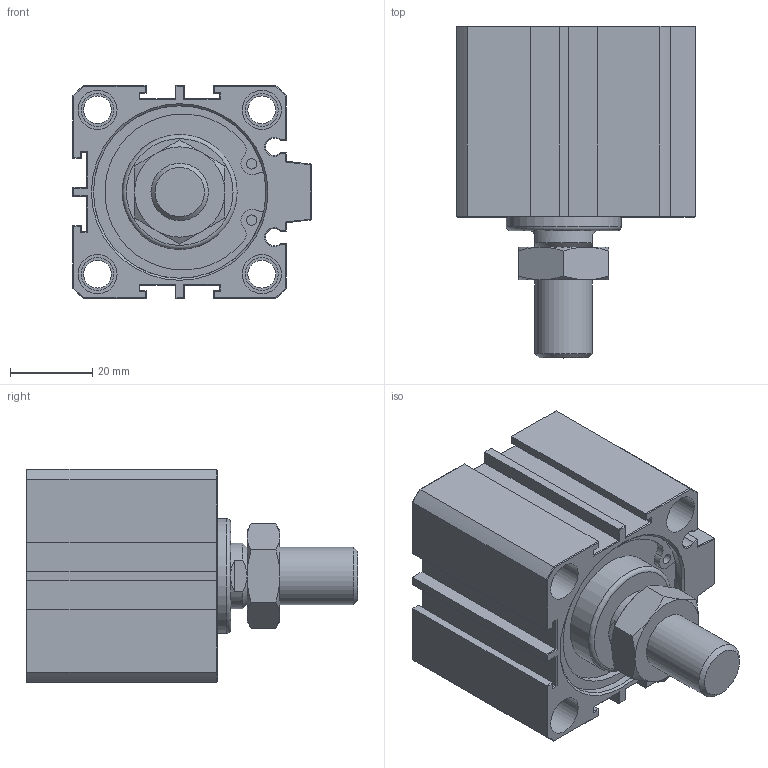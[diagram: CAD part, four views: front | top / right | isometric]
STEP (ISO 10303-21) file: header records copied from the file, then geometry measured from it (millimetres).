
FILE_DESCRIPTION(/* description */ (''),/* implementation_level */ '2;1');
FILE_NAME(/* name */ 'AJC-SDM40X10W',/* time_stamp */ '2019-07-05T16:14:37+08:00',/* author */ ('JEFF HUANG'),/* organization */ ('TAIWAN AMAC CLAMP INDUSTRIAL CO., LTD.'),/* preprocessor_version */ 'ST-DEVELOPER v16.7',/* originating_system */ 'DEX',/* authorisation */ $);
FILE_SCHEMA (('AUTOMOTIVE_DESIGN {1 0 10303 214 3 1 1}'));
Length unit declared in the file: millimetre
Products named in the file (1): AJC-SDM40X10W
Bounding box: 58 x 80.8 x 52 mm (x, y, z)
Volume: 112466.9 mm3; surface area: 27586.3 mm2
Topology: 1 solids, 1 shells, 283 faces, 618 edges, 366 vertices
Faces by surface type: plane 199, cylinder 51, cone 31, torus 2
Full cylindrical faces by diameter (mm): 2.5 x4, 6.8 x4, 8 x8, 9.147 x2, 9.5 x8, 14 x1, 28 x1, 29 x1, 42 x2
Entity records: 9393 total; most frequent: CARTESIAN_POINT 1388, DIRECTION 1234, ORIENTED_EDGE 1154, EDGE_CURVE 577, AXIS2_PLACEMENT_3D 425, LINE 384, VECTOR 384, VERTEX_POINT 363
